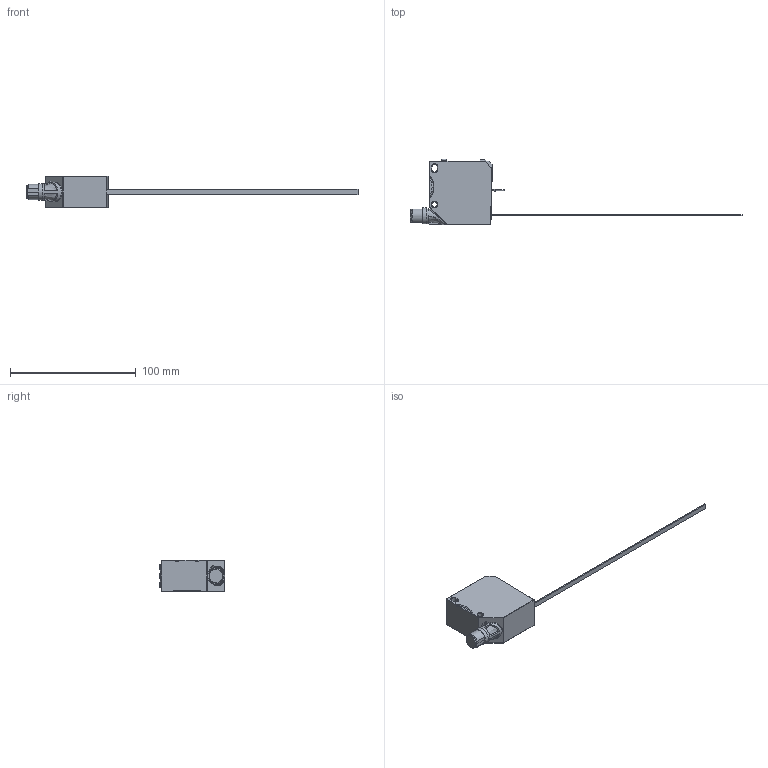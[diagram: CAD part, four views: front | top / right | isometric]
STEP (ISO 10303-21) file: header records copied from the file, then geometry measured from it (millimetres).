
FILE_DESCRIPTION(/* description */ (''),/* implementation_level */ '2;1');
FILE_NAME(/* name */ '624-41011_FT 55-RL2AM-160-PNSUIDL-L5M.stp',/* time_stamp */ '2023-12-15T09:29:24+01:00',/* author */ ('Sandra.Stahl'),/* organization */ (''),/* preprocessor_version */ 'ST-DEVELOPER v19.2',/* originating_system */ 'Autodesk Inventor 2023',/* authorisation */ '');
FILE_SCHEMA (('AUTOMOTIVE_DESIGN { 1 0 10303 214 3 1 1 }'));
Length unit declared in the file: millimetre
Products named in the file (1): GH-ENG-0044123_Vereinfachen_1
Bounding box: 264.52 x 52.11 x 25 mm (x, y, z)
Volume: 62358.9 mm3; surface area: 13963.7 mm2
Topology: 4 solids, 4 shells, 252 faces, 611 edges, 382 vertices
Faces by surface type: plane 93, cylinder 49, cone 42, bspline 30, sphere 20, torus 18
Full cylindrical faces by diameter (mm): 1 x1, 4.1 x3, 8.9 x1, 13 x1, 15.5 x1
Entity records: 9374 total; most frequent: CARTESIAN_POINT 3341, ORIENTED_EDGE 1218, DIRECTION 1147, EDGE_CURVE 609, AXIS2_PLACEMENT_3D 446, VERTEX_POINT 381, EDGE_LOOP 272, STYLED_ITEM 256
